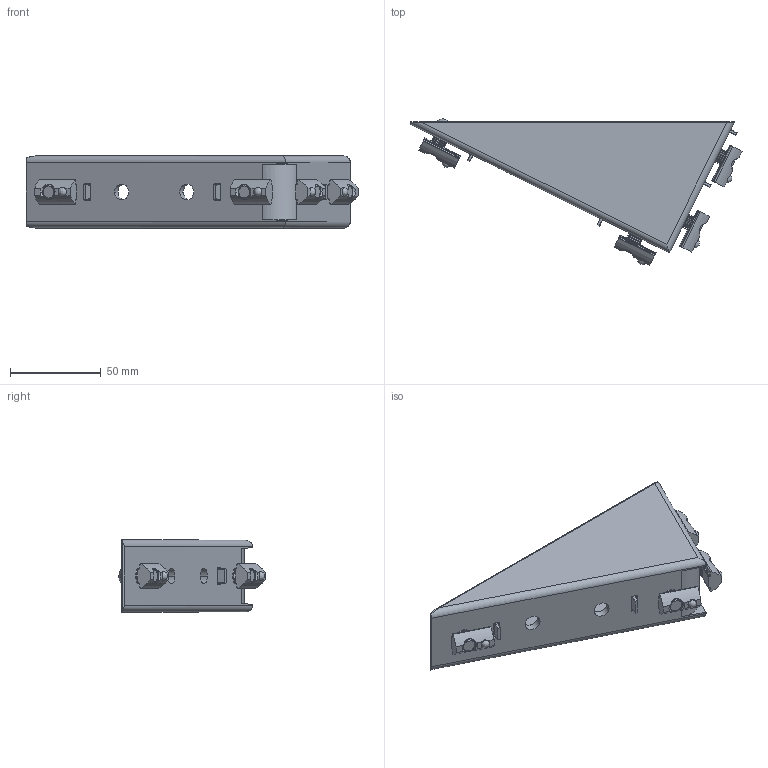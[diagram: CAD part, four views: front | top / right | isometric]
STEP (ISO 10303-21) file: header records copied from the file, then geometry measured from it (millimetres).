
FILE_DESCRIPTION (( 'STEP AP203' ), '1' );
FILE_NAME ('35131101_Winkel 8 80x160 ZN, alufarbig mit Bef.-Satz.step', '2023-09-12T06:38:54', ( '' ), ( '' ), 'SwSTEP 2.0', 'SolidWorks 2021', '' );
FILE_SCHEMA (( 'CONFIG_CONTROL_DESIGN' ));
Length unit declared in the file: millimetre
Products named in the file (5): 355050 Nutenstein 8 M8 einschwenkbar mit Kugel und Steg; ISO 7380 - M8 x 16 - 16S_ISO 7380 - M8 x 16 - 16S; 35131100 Winkel 8 80x160 ZN, alufarbig; 99902128 Scheibe Vierkantscheibe t=2mm, verzinkt; 35131101_Winkel 8 80x160 ZN, alufarbig mit Bef.-Satz
Assembly tree (13 placements, depth 2):
  35131101_Winkel 8 80x160 ZN, alufarbig mit Bef.-Satz
    35131100 Winkel 8 80x160 ZN, alufarbig
    ISO 7380 - M8 x 16 - 16S_ISO 7380 - M8 x 16 - 16S  x4
    99902128 Scheibe Vierkantscheibe t=2mm, verzinkt  x4
    355050 Nutenstein 8 M8 einschwenkbar mit Kugel und Steg  x4
Bounding box: 182.97 x 80.63 x 39.8 mm (x, y, z)
Volume: 101510.4 mm3; surface area: 56202.8 mm2
Topology: 17 solids, 21 shells, 1328 faces, 3395 edges, 2110 vertices
Faces by surface type: cylinder 444, plane 353, cone 262, bspline 214, torus 47, sphere 8
Entity records: 33475 total; most frequent: CARTESIAN_POINT 14917, ORIENTED_EDGE 4074, DIRECTION 3328, EDGE_CURVE 2037, VERTEX_POINT 1252, AXIS2_PLACEMENT_3D 1221, VECTOR 886, LINE 886
